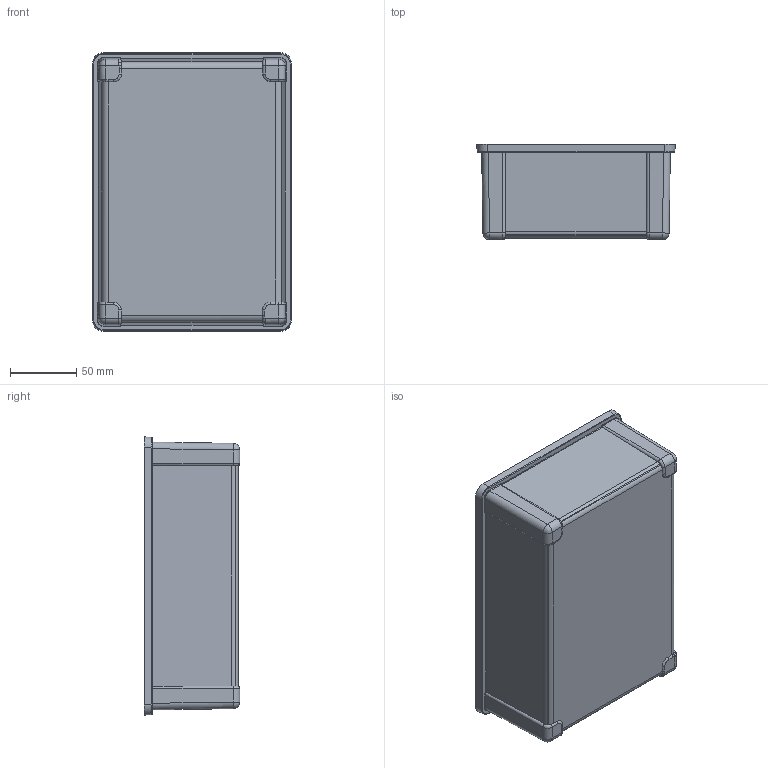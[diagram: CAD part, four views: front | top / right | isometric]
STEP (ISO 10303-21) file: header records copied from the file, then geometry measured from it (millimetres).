
FILE_DESCRIPTION((''),'2;1');
FILE_NAME('BOX200X140X90-BOX','2022-09-13T10:40:01',('pc'),(''),'CREO PARAMETRIC BY PTC INC, 2018100','CREO PARAMETRIC BY PTC INC, 2018100','');
FILE_SCHEMA(('CONFIG_CONTROL_DESIGN'));
Length unit declared in the file: millimetre
Products named in the file (1): BOX200X140X90-BOX
Bounding box: 150 x 72 x 210 mm (x, y, z)
Volume: 203654.5 mm3; surface area: 155171.1 mm2
Topology: 1 solids, 1 shells, 234 faces, 557 edges, 341 vertices
Faces by surface type: cylinder 68, plane 58, cone 48, torus 32, bspline 24, sphere 4
Entity records: 7978 total; most frequent: CARTESIAN_POINT 2568, DIRECTION 1164, ORIENTED_EDGE 1114, EDGE_CURVE 557, AXIS2_PLACEMENT_3D 477, VERTEX_POINT 341, CIRCLE 267, EDGE_LOOP 250
